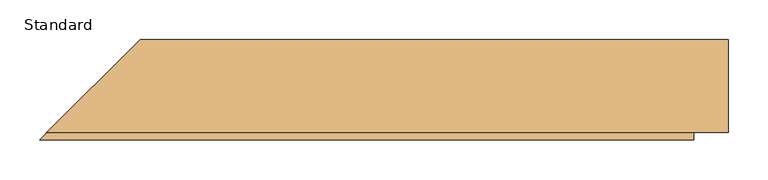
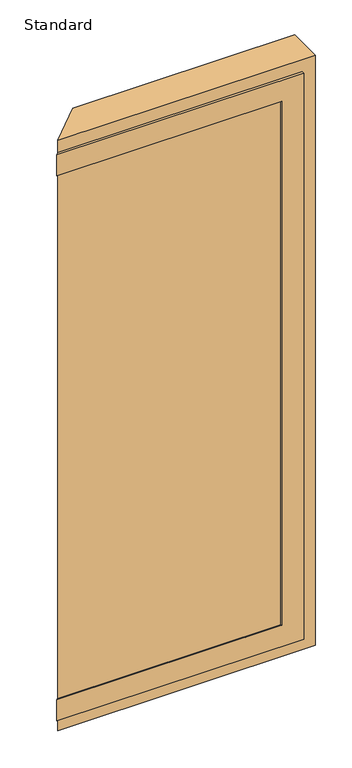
"""IFC4 building model written with IfcOpenShell, lengths in millimetres: door geometry, SMARTS_Visoglide Plus Corner : Standard."""

from ifc_helpers import new_model, si_unit, frame, origin, place, context, project, spatial, polyline, outline, extrude, faceted_brep, source, transform, mapped, element, save


def standard_54fc9771(model_context):
    return source(origin(), model_context, "Body", "SolidModel", [
        extrude(outline(polyline([(392.5, -24.0), (-367.0, -24.0), (-363.0, -20.0), (392.5, -20.0), (392.5, -24.0)])), frame((0.0, 0.0, 907.5), z_axis=(0.0, 0.0, 1.0), x_axis=(1.0, 0.0, 0.0)), (0.0, 0.0, 1.0), 1885.0),
        extrude(outline(polyline([(392.5, -4.0), (-347.0, -4.0), (-343.0, 0.0), (392.5, 0.0), (392.5, -4.0)])), frame((0.0, 0.0, 907.5), z_axis=(0.0, 0.0, 1.0), x_axis=(1.0, 0.0, 0.0)), (0.0, 0.0, 1.0), 1885.0),
        faceted_brep([(382.5, -4.0, 2782.5), (382.5, -4.0, 917.5), (382.5, -20.0, 917.5), (382.5, -20.0, 2782.5), (-347.0, -4.0, 2782.5), (-347.0, -4.0, 2792.5), (392.5, -4.0, 2792.5), (392.5, -4.0, 907.5), (-347.0, -4.0, 907.5), (-347.0, -4.0, 917.5), (-363.0, -20.0, 2782.5), (-363.0, -20.0, 2792.5), (392.5, -20.0, 2792.5), (392.5, -20.0, 907.5), (-363.0, -20.0, 917.5), (-363.0, -20.0, 907.5)], [[[0, 1, 2, 3]], [[0, 4, 5, 6, 7, 8, 9, 1]], [[3, 10, 4, 0]], [[6, 5, 11, 12]], [[12, 13, 7, 6]], [[1, 9, 14, 2]], [[13, 15, 8, 7]], [[2, 14, 15, 13, 12, 11, 10, 3]], [[9, 8, 15, 14]], [[10, 11, 5, 4]]]),
        faceted_brep([(-335.9897777, 7.0102223, 2777.5), (-335.9897777, 7.0102223, 2797.5), (-324.0, 19.0, 2797.5), (-324.0, 19.0, 2777.5), (-324.0, 19.0, 922.5), (-324.0, 19.0, 902.5), (-335.9897777, 7.0102223, 902.5), (-335.9897777, 7.0102223, 922.5), (377.5, 7.0102223, 922.5), (377.5, 7.0102223, 2777.5), (377.5, 19.0, 2777.5), (377.5, 19.0, 922.5), (397.5, 19.0, 902.5), (397.5, 19.0, 2797.5), (397.5, 7.0102223, 2797.5), (397.5, 7.0102223, 902.5)], [[[0, 1, 2, 3]], [[4, 5, 6, 7]], [[8, 9, 10, 11]], [[12, 13, 14, 15]], [[9, 0, 3, 10]], [[13, 2, 1, 14]], [[11, 4, 7, 8]], [[8, 7, 6, 15, 14, 1, 0, 9]], [[15, 6, 5, 12]], [[10, 3, 2, 13, 12, 5, 4, 11]]]),
        faceted_brep([(-324.0, 19.0, 2851.5), (-324.0, 19.0, 2797.5), (-352.5, -9.5, 2797.5), (-352.5, -9.5, 2851.5), (-352.5, -9.5, 902.5), (-324.0, 19.0, 902.5), (-324.0, 19.0, 848.5), (-352.5, -9.5, 848.5), (451.5, 19.0, 848.5), (451.5, 19.0, 2851.5), (451.5, -9.5, 2851.5), (451.5, -9.5, 848.5), (397.5, -9.5, 902.5), (397.5, -9.5, 2797.5), (397.5, 19.0, 2797.5), (397.5, 19.0, 902.5)], [[[0, 1, 2, 3]], [[4, 5, 6, 7]], [[8, 9, 10, 11]], [[12, 13, 14, 15]], [[9, 0, 3, 10]], [[13, 2, 1, 14]], [[10, 3, 2, 13, 12, 4, 7, 11]], [[11, 7, 6, 8]], [[8, 6, 5, 15, 14, 1, 0, 9]], [[15, 5, 4, 12]]]),
        faceted_brep([(-371.0, -28.0, 922.5), (-371.0, -28.0, 899.5), (-352.5, -9.5, 899.5), (-352.5, -9.5, 848.5), (-375.0, -32.0, 848.5), (-375.0, -32.0, 922.5), (-375.0, -32.0, 2851.5), (-352.5, -9.5, 2851.5), (-352.5, -9.5, 2800.5), (-371.0, -28.0, 2800.5), (-371.0, -28.0, 2777.5), (-375.0, -32.0, 2777.5), (377.5, -28.0, 2777.5), (377.5, -28.0, 922.5), (377.5, -32.0, 922.5), (377.5, -32.0, 2777.5), (400.5, -9.5, 2800.5), (400.5, -9.5, 899.5), (400.5, -28.0, 899.5), (400.5, -28.0, 2800.5), (451.5, -32.0, 2851.5), (451.5, -32.0, 848.5), (451.5, -9.5, 848.5), (451.5, -9.5, 2851.5)], [[[0, 1, 2, 3, 4, 5]], [[6, 7, 8, 9, 10, 11]], [[12, 13, 14, 15]], [[16, 17, 18, 19]], [[20, 21, 22, 23]], [[13, 0, 5, 14]], [[17, 2, 1, 18]], [[21, 4, 3, 22]], [[14, 5, 4, 21, 20, 6, 11, 15]], [[15, 11, 10, 12]], [[12, 10, 9, 19, 18, 1, 0, 13]], [[19, 9, 8, 16]], [[16, 8, 7, 23, 22, 3, 2, 17]], [[23, 7, 6, 20]]]),
        faceted_brep([(495.0, 95.0, 2895.0), (-248.0, 95.0, 2895.0), (-365.7989407, -22.7989407, 2895.0), (495.0, -22.7989407, 2895.0), (443.1999999, 91.0, 2843.1999999), (-252.0, 91.0, 2843.1999999), (-248.0, 95.0, 2843.1999999), (443.1999999, 95.0, 2843.1999999), (469.1999999, 76.3, 2869.1999999), (-266.7, 76.3, 2869.1999999), (-252.0, 91.0, 2869.1999999), (469.1999999, 91.0, 2869.1999999), (443.1999999, 43.7842251, 2843.1999999), (-299.2157749, 43.7842251, 2843.1999999), (-266.7, 76.3, 2843.1999999), (443.1999999, 76.3, 2843.1999999), (469.1999999, 9.7842251, 2869.1999999), (-333.2157749, 9.7842251, 2869.1999999), (-299.2157749, 43.7842251, 2869.1999999), (469.1999999, 43.7842251, 2869.1999999), (443.1999999, -22.7989407, 2843.1999999), (-365.7989407, -22.7989407, 2843.1999999), (-333.2157749, 9.7842251, 2843.1999999), (443.1999999, 9.7842251, 2843.1999999), (495.0, -22.7989407, 805.0), (-365.7989407, -22.7989407, 805.0), (-248.0, 95.0, 805.0), (495.0, 95.0, 805.0), (443.1999999, 95.0, 856.8000001), (-248.0, 95.0, 856.8000001), (-252.0, 91.0, 856.8000001), (443.1999999, 91.0, 856.8000001), (469.1999999, 91.0, 830.8000001), (-252.0, 91.0, 830.8000001), (-266.7, 76.3, 830.8000001), (469.1999999, 76.3, 830.8000001), (443.1999999, 76.3, 856.8000001), (-266.7, 76.3, 856.8000001), (-299.2157749, 43.7842251, 856.8000001), (443.1999999, 43.7842251, 856.8000001), (469.1999999, 43.7842251, 830.8000001), (-299.2157749, 43.7842251, 830.8000001), (-333.2157749, 9.7842251, 830.8000001), (469.1999999, 9.7842251, 830.8000001), (443.1999999, 9.7842251, 856.8000001), (-333.2157749, 9.7842251, 856.8000001), (-365.7989407, -22.7989407, 856.8000001), (443.1999999, -22.7989407, 856.8000001)], [[[0, 1, 2, 3]], [[4, 5, 6, 7]], [[8, 9, 10, 11]], [[12, 13, 14, 15]], [[16, 17, 18, 19]], [[20, 21, 22, 23]], [[24, 25, 26, 27]], [[28, 29, 30, 31]], [[32, 33, 34, 35]], [[36, 37, 38, 39]], [[40, 41, 42, 43]], [[44, 45, 46, 47]], [[3, 24, 27, 0]], [[27, 26, 29, 28, 7, 6, 1, 0]], [[7, 28, 31, 4]], [[31, 30, 33, 32, 11, 10, 5, 4]], [[11, 32, 35, 8]], [[35, 34, 37, 36, 15, 14, 9, 8]], [[15, 36, 39, 12]], [[39, 38, 41, 40, 19, 18, 13, 12]], [[19, 40, 43, 16]], [[43, 42, 45, 44, 23, 22, 17, 16]], [[23, 44, 47, 20]], [[3, 2, 21, 20, 47, 46, 25, 24]], [[1, 6, 5, 10, 9, 14, 13, 18, 17, 22, 21, 2]], [[25, 46, 45, 42, 41, 38, 37, 34, 33, 30, 29, 26]]]),
    ])


if __name__ == "__main__":
    model = new_model("IFC4")
    model_context = context("Model", 3, world=origin())
    ifc_project = project(units=[si_unit("LENGTHUNIT", "METRE", prefix="MILLI")], contexts=[model_context])
    site = spatial("IfcSite", under=ifc_project)
    building = spatial("IfcBuilding", under=site)
    placement = place(None, origin())
    standard_shape = standard_54fc9771(model_context)
    element("IfcDoor", 1, ObjectType="SMARTS_Visoglide Plus Corner : Standard", at=placement, inside=building, context=model_context, shape_type="MappedRepresentation", body=[
        mapped(standard_shape, transform((0.0, 0.0, 0.0), x_axis=(1.0, 0.0, 0.0), y_axis=(0.0, 1.0, 0.0), z_axis=(0.0, 0.0, 1.0))),
    ])
    save(model, "model.ifc")
